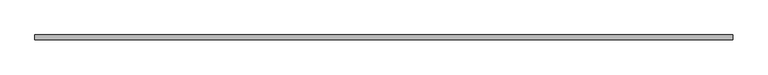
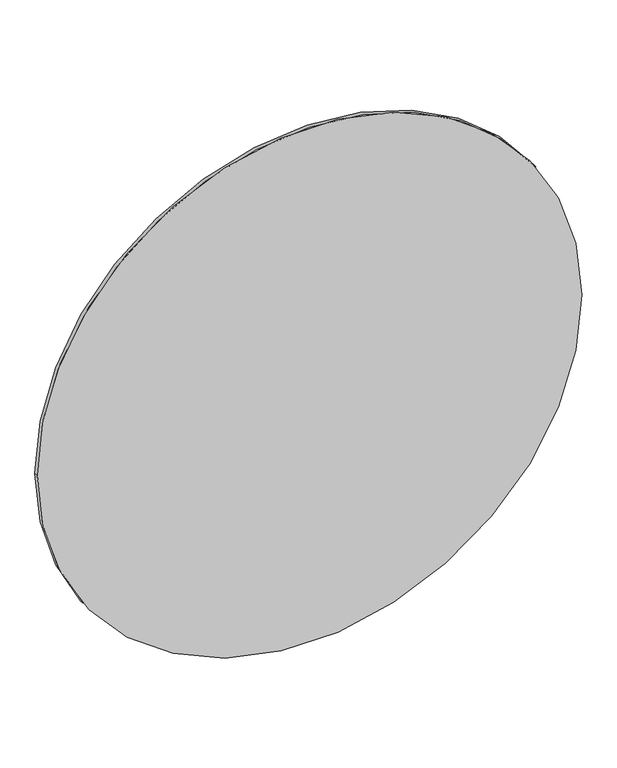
"""IFC4 building model written with IfcOpenShell, lengths in millimetres: proxy geometry, AERO^TABLE 1_ATR-5454^TOP PNL06."""

from ifc_helpers import new_model, si_unit, point, frame, origin, origin_2d, place, context, project, spatial, circle_curve, trimmed, segment, composite_curve, outline, extrude, source, transform, mapped, element, save


def generic_models_c3073f67(model_context):
    return source(origin(), model_context, "Body", "SweptSolid", [
        extrude(outline(composite_curve([segment(trimmed(circle_curve(origin_2d(), 685.8), [point((0.0, -685.8))], [point((0.0, 685.8))], False, "CARTESIAN"), True, "CONTINUOUS"), segment(trimmed(circle_curve(origin_2d(), 685.8), [point((0.0, 685.8))], [point((0.0, -685.8))], False, "CARTESIAN"), True, "CONTINUOUS")], self_intersect=False)), frame((0.0, 22.225, 0.0), z_axis=(0.0, 1.0, 0.0), x_axis=(0.0, 0.0, 1.0)), (0.0, 0.0, 1.0), 9.525),
    ])


if __name__ == "__main__":
    model = new_model("IFC4")
    model_context = context("Model", 3, world=origin())
    ifc_project = project(units=[si_unit("LENGTHUNIT", "METRE", prefix="MILLI")], contexts=[model_context])
    site = spatial("IfcSite", under=ifc_project)
    building = spatial("IfcBuilding", under=site)
    placement = place(None, origin())
    generic_models_shape = generic_models_c3073f67(model_context)
    element("IfcBuildingElementProxy", 1, Name="AERO^TABLE 1_ATR-5454^TOP PNL06", ObjectType="AERO^TABLE 1_ATR-5454^TOP PNL06", at=placement, inside=building, context=model_context, shape_type="MappedRepresentation", body=[
        mapped(generic_models_shape, transform((0.0, 0.0, 0.0), x_axis=(1.0, 0.0, 0.0), y_axis=(0.0, 1.0, 0.0), z_axis=(0.0, 0.0, 1.0))),
    ])
    save(model, "model.ifc")
